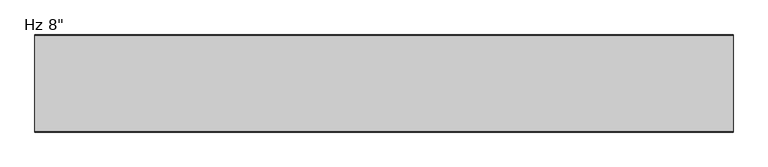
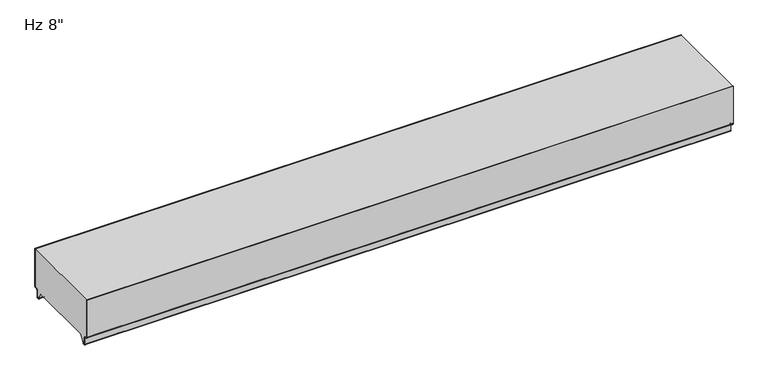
"""IFC4 building model written with IfcOpenShell, lengths in millimetres: plate geometry."""

import ifcopenshell
import ifcopenshell.guid

model = None  # the IFC model being written
_history = None  # IfcOwnerHistory: only IFC2X3 demands one
_inside = {}  # id of a spatial element -> (the spatial element, [elements in it])
_under = {}  # id of a project, library or spatial element -> (it, [spatial elements below it])
_declared = {}  # id of a project -> (the project, [libraries it declares])
_typed = {}  # id of a type object -> (the type object, [elements of that type])
_made_of = {}  # id of a material, layer set ... -> (it, [elements and type objects made of it])


def new_model(schema):
    """Start an empty IFC model of exactly this schema.

    Asked for "IFC4X3", IfcOpenShell would pick the latest addendum, in which some entities
    have other attributes; the version numbers below select the first issue.
    IFC2X3 requires an IfcOwnerHistory on every rooted entity: one is made here for all.
    """
    global model, _history
    if schema == "IFC4X3":
        model = ifcopenshell.file(schema_version=(4, 3, 0, 0))
    else:
        model = ifcopenshell.file(schema=schema)
    _inside.clear()
    _under.clear()
    _declared.clear()
    _typed.clear()
    _made_of.clear()
    _history = None
    if model.schema == "IFC2X3":
        org = make("IfcOrganization", Name="unknown")
        user = make(
            "IfcPersonAndOrganization",
            ThePerson=make("IfcPerson", FamilyName="unknown"),
            TheOrganization=org,
        )
        app = make(
            "IfcApplication",
            ApplicationDeveloper=org,
            Version="unknown",
            ApplicationFullName="unknown",
            ApplicationIdentifier="unknown",
        )
        _history = make(
            "IfcOwnerHistory",
            OwningUser=user,
            OwningApplication=app,
            ChangeAction="ADDED",
            CreationDate=0,
        )
    return model


def make(cls, **values):
    """One entity of the class cls with the attributes given. An attribute that is None is left unset."""
    return model.create_entity(
        cls, **{name: value for name, value in values.items() if value is not None}
    )


def rooted(cls, **values):
    """An entity with a GlobalId (a new one), such as an element, a storey or a relation."""
    return make(cls, GlobalId=ifcopenshell.guid.new(), OwnerHistory=_history, **values)


def si_unit(unit_type, name, prefix=None):
    """IfcSIUnit, for example si_unit("LENGTHUNIT", "METRE", prefix="MILLI")."""
    return make("IfcSIUnit", UnitType=unit_type, Prefix=prefix, Name=name)


def assignment(units):
    """IfcUnitAssignment: the units of a project."""
    return None if units is None else make("IfcUnitAssignment", Units=units)


def point(xyz):
    """IfcCartesianPoint."""
    return None if xyz is None else make("IfcCartesianPoint", Coordinates=xyz)


def direction(xyz):
    """IfcDirection."""
    return None if xyz is None else make("IfcDirection", DirectionRatios=xyz)


def frame(location, z_axis=None, x_axis=None):
    """IfcAxis2Placement3D, a coordinate frame: its origin and axes. An axis left out is left unset."""
    return make(
        "IfcAxis2Placement3D",
        Location=point(location),
        Axis=direction(z_axis),
        RefDirection=direction(x_axis),
    )


def origin():
    """The frame at (0, 0, 0) with its axes left unset."""
    return frame((0.0, 0.0, 0.0))


def place(relative_to, where):
    """IfcLocalPlacement: puts the frame where relative to a parent placement (None: the world)."""
    return make(
        "IfcLocalPlacement", PlacementRelTo=relative_to, RelativePlacement=where
    )


def context(
    kind, dimensions, precision=None, world=None, true_north=None, identifier=None
):
    """IfcGeometricRepresentationContext, for example the 3D "Model" context."""
    return make(
        "IfcGeometricRepresentationContext",
        ContextIdentifier=identifier,
        ContextType=kind,
        CoordinateSpaceDimension=dimensions,
        Precision=precision,
        WorldCoordinateSystem=world,
        TrueNorth=true_north,
    )


def project(units=None, contexts=None):
    """IfcProject with its units and contexts."""
    return rooted(
        "IfcProject",
        Name="project",
        RepresentationContexts=contexts,
        UnitsInContext=assignment(units),
    )


def spatial(cls, under=None, at=None, **own):
    """A site, building, storey or space (cls), placed at a placement, below another one or the project."""
    s = rooted(cls, ObjectPlacement=at, **own)
    if under is not None:
        _under.setdefault(under.id(), (under, []))[1].append(s)
    return s


def polyline(points):
    """IfcPolyline through the points."""
    return make("IfcPolyline", Points=[point(p) for p in points])


def circle_curve(where, radius):
    """IfcCircle in the frame where."""
    return make("IfcCircle", Position=where, Radius=radius)


def shape(context_of_items, identifier, shape_type, items):
    """IfcShapeRepresentation: the items that make up one representation, for example the "Body"."""
    return make(
        "IfcShapeRepresentation",
        ContextOfItems=context_of_items,
        RepresentationIdentifier=identifier,
        RepresentationType=shape_type,
        Items=items,
    )


def source(mapping_origin, context_of_items, identifier, shape_type, items):
    """IfcRepresentationMap: a shape defined once, which mapped items show again and again."""
    return make(
        "IfcRepresentationMap",
        MappingOrigin=mapping_origin,
        MappedRepresentation=shape(context_of_items, identifier, shape_type, items),
    )


def transform(
    local_origin,
    x_axis=None,
    y_axis=None,
    z_axis=None,
    scale=None,
    scale2=None,
    scale3=None,
    uniform=True,
):
    """IfcCartesianTransformationOperator3D, or its non-uniform kind. x_axis, y_axis, z_axis: its Axis1, 2, 3."""
    if uniform:
        return make(
            "IfcCartesianTransformationOperator3D",
            Axis1=direction(x_axis),
            Axis2=direction(y_axis),
            LocalOrigin=point(local_origin),
            Scale=scale,
            Axis3=direction(z_axis),
        )
    return make(
        "IfcCartesianTransformationOperator3DnonUniform",
        Axis1=direction(x_axis),
        Axis2=direction(y_axis),
        LocalOrigin=point(local_origin),
        Scale=scale,
        Axis3=direction(z_axis),
        Scale2=scale2,
        Scale3=scale3,
    )


def mapped(mapping_source, mapping_target):
    """IfcMappedItem: shows the shape of a source again, moved by a transform."""
    return make(
        "IfcMappedItem", MappingSource=mapping_source, MappingTarget=mapping_target
    )


def made_of(thing, what):
    """Note that an element or type object is made of a material, layer set ...; save() writes the relation."""
    if what is not None:
        _made_of.setdefault(what.id(), (what, []))[1].append(thing)
    return thing


def element(
    cls,
    number,
    at=None,
    inside=None,
    cuts=None,
    type_object=None,
    material=None,
    context=None,
    identifier="Body",
    shape_type=None,
    held_by="IfcProductDefinitionShape",
    body=None,
    shapes=None,
    **own,
):
    """One element of the class cls, such as IfcWall. Its Tag is "e" and its number.

    at: its placement. inside: the storey or other place that contains it. cuts: it is an
    opening in that element (IfcRelVoidsElement). A single representation is given by context,
    identifier, shape_type and body (its items); several are given by shapes. held_by: the class
    of the entity that holds the representations. save() writes the other relations.
    """
    e = rooted(cls, Tag="e%d" % number, ObjectPlacement=at, **own)
    if body is not None:
        shapes = [shape(context, identifier, shape_type, body)]
    if shapes is not None:
        e.Representation = make(held_by, Representations=shapes)
    if inside is not None:
        _inside.setdefault(inside.id(), (inside, []))[1].append(e)
    if cuts is not None:
        rooted(
            "IfcRelVoidsElement", RelatingBuildingElement=cuts, RelatedOpeningElement=e
        )
    if type_object is not None:
        _typed.setdefault(type_object.id(), (type_object, []))[1].append(e)
    return made_of(e, material)


def aggregate(whole, parts):
    """IfcRelAggregates: a whole, such as a stair, and the parts it consists of."""
    return rooted("IfcRelAggregates", RelatingObject=whole, RelatedObjects=parts)


def save(model, path):
    """Write the relations noted so far, then the file.

    IfcRelAggregates (storeys below a building ...), IfcRelContainedInSpatialStructure (elements
    in a storey), IfcRelDefinesByType, IfcRelAssociatesMaterial and IfcRelDeclares: one each for
    every whole, place, type object, material and project.
    """
    for whole, parts in _under.values():
        aggregate(whole, parts)
    for where, things in _inside.values():
        rooted(
            "IfcRelContainedInSpatialStructure",
            RelatedElements=things,
            RelatingStructure=where,
        )
    for kind, things in _typed.values():
        rooted("IfcRelDefinesByType", RelatedObjects=things, RelatingType=kind)
    for what, things in _made_of.values():
        rooted("IfcRelAssociatesMaterial", RelatedObjects=things, RelatingMaterial=what)
    for by, libraries in _declared.values():
        rooted("IfcRelDeclares", RelatingContext=by, RelatedDefinitions=libraries)
    model.write(path)


def plane_surface(at):
    """IfcPlane: the flat surface through the origin of the frame at, square to its z axis."""
    return make("IfcPlane", Position=at)


def cylinder_surface(at, radius):
    """IfcCylindricalSurface: all points at the distance radius from the z axis of the frame at."""
    return make("IfcCylindricalSurface", Position=at, Radius=radius)


def revolved_surface(curve, axis_point, axis_direction):
    """IfcSurfaceOfRevolution: the curve turned about the line through axis_point along axis_direction."""
    return make(
        "IfcSurfaceOfRevolution",
        SweptCurve=make("IfcArbitraryOpenProfileDef", ProfileType="CURVE", Curve=curve),
        AxisPosition=make("IfcAxis1Placement", Location=point(axis_point), Axis=direction(axis_direction)),
    )


def advanced_brep(points, edges, surfaces, faces):
    """IfcAdvancedBrep: a solid bounded by faces that lie on surfaces and meet in shared edges.

    An edge is (start, end): straight between two places in points (the first is 0);
    or (start, end, curve); or (start, end, curve, False) where it runs against its curve.
    A face is (place in surfaces, loops), or (place, loops, False) where it looks against
    its surface's normal. A loop lists edges by number (the first is 1), with a minus sign
    where the edge is run from its end to its start. The first loop is the outer one.
    """
    corners = [point(p) for p in points]
    vertices = [make("IfcVertexPoint", VertexGeometry=c) for c in corners]
    made = []
    for start, end, *more in edges:
        made.append(
            make(
                "IfcEdgeCurve",
                EdgeStart=vertices[start],
                EdgeEnd=vertices[end],
                EdgeGeometry=more[0] if more else make("IfcPolyline", Points=[corners[start], corners[end]]),
                SameSense=more[1] if len(more) > 1 else True,
            )
        )
    hull = []
    for where, loops, *sense in faces:
        bounds = []
        for j, loop in enumerate(loops):
            ring = [make("IfcOrientedEdge", EdgeElement=made[abs(k) - 1], Orientation=k > 0) for k in loop]
            bounds.append(
                make(
                    "IfcFaceOuterBound" if j == 0 else "IfcFaceBound",
                    Bound=make("IfcEdgeLoop", EdgeList=ring),
                    Orientation=True,
                )
            )
        hull.append(make("IfcAdvancedFace", Bounds=bounds, FaceSurface=surfaces[where], SameSense=sense[0] if sense else True))
    return make("IfcAdvancedBrep", Outer=make("IfcClosedShell", CfsFaces=hull))


def plate_65289337(model_context):
    return source(origin(), model_context, "Body", "AdvancedBrep", [
        advanced_brep(
        [(-730.0, -2.9776189, 3.8501063), (-730.0, -1.0007088, 5.8270163), (-730.0, -1.0007088, 94.95), (-730.0, 0.0, 94.95), (-730.0, 0.0, 5.8272211), (-730.0, -2.977286, 2.8499526), (-730.0, -5.2691698, 2.8499526), (-730.0, -8.2464384, -0.1273159), (-730.0, -8.2464384, -15.7237419), (-730.0, -9.8343149, -17.3116185), (-730.0, -12.9058636, -17.3116185), (-730.0, -14.4937401, -15.7237419), (-730.0, -14.4937401, -13.3687064), (-730.0, -13.4937365, -13.3687064), (-730.0, -13.4937365, -15.7237374), (-730.0, -12.9058654, -16.3116086), (-730.0, -9.834334, -16.3116086), (-730.0, -9.2464768, -15.7237514), (-730.0, -9.2464768, -0.1272391), (-730.0, -5.2691315, 3.8501063), (730.0, -2.9776189, 3.8501063), (730.0, -5.2691315, 3.8501063), (730.0, -9.2464768, -0.1272391), (730.0, -9.2464768, -15.7237514), (730.0, -9.834334, -16.3116086), (730.0, -12.9058654, -16.3116086), (730.0, -13.4937365, -15.7237374), (730.0, -13.4937365, -13.3687064), (730.0, -14.4937401, -13.3687064), (730.0, -14.4937401, -15.7237419), (730.0, -12.9058636, -17.3116185), (730.0, -9.8343149, -17.3116185), (730.0, -8.2464384, -15.7237419), (730.0, -8.2464384, -0.1273159), (730.0, -5.2691698, 2.8499526), (730.0, -2.977286, 2.8499526), (730.0, -1.75e-05, 5.8272211), (730.0, 0.0, 94.95), (730.0, -1.0007088, 94.95), (730.0, -1.0007088, 5.8270163)],
        [
            (0, 1, circle_curve(frame((-730.0, -2.9776189, 5.8270163), z_axis=(1.0, 0.0, 0.0), x_axis=(0.0, 1.0, 0.0)), 1.9769101)),
            (1, 2),
            (2, 3),
            (3, 4),
            (4, 5, circle_curve(frame((-730.0, -2.977286, 5.8272211), z_axis=(-1.0, 0.0, 0.0), x_axis=(0.0, 1.0, 0.0)), 2.9772685)),
            (5, 6),
            (6, 7, circle_curve(frame((-730.0, -5.2691698, -0.1273159), z_axis=(1.0, 0.0, 0.0), x_axis=(0.0, 1.0, 0.0)), 2.9772685)),
            (7, 8),
            (8, 9, circle_curve(frame((-730.0, -9.8343149, -15.7237419), z_axis=(-1.0, 0.0, 0.0), x_axis=(0.0, 1.0, 0.0)), 1.5878765)),
            (9, 10),
            (10, 11, circle_curve(frame((-730.0, -12.9058636, -15.7237419), z_axis=(-1.0, 0.0, 0.0), x_axis=(0.0, 1.0, 0.0)), 1.5878765)),
            (11, 12),
            (12, 13),
            (13, 14),
            (14, 15, circle_curve(frame((-730.0, -12.9058654, -15.7237374), z_axis=(1.0, 0.0, 0.0), x_axis=(0.0, 1.0, 0.0)), 0.5878711)),
            (15, 16),
            (16, 17, circle_curve(frame((-730.0, -9.834334, -15.7237514), z_axis=(1.0, 0.0, 0.0), x_axis=(0.0, 1.0, 0.0)), 0.5878572)),
            (17, 18),
            (18, 19, circle_curve(frame((-730.0, -5.2691315, -0.1272391), z_axis=(-1.0, 0.0, 0.0), x_axis=(0.0, 1.0, 0.0)), 3.9773454)),
            (19, 0),
            (20, 21),
            (21, 22, circle_curve(frame((730.0, -5.2691315, -0.1272391), z_axis=(1.0, 0.0, 0.0), x_axis=(0.0, 1.0, 0.0)), 3.9773454)),
            (22, 23),
            (23, 24, circle_curve(frame((730.0, -9.834334, -15.7237514), z_axis=(-1.0, 0.0, 0.0), x_axis=(0.0, 1.0, 0.0)), 0.5878572)),
            (24, 25),
            (25, 26, circle_curve(frame((730.0, -12.9058654, -15.7237374), z_axis=(-1.0, 0.0, 0.0), x_axis=(0.0, 1.0, 0.0)), 0.5878711)),
            (26, 27),
            (27, 28),
            (28, 29),
            (29, 30, circle_curve(frame((730.0, -12.9058636, -15.7237419), z_axis=(1.0, 0.0, 0.0), x_axis=(0.0, 1.0, 0.0)), 1.5878765)),
            (30, 31),
            (31, 32, circle_curve(frame((730.0, -9.8343149, -15.7237419), z_axis=(1.0, 0.0, 0.0), x_axis=(0.0, 1.0, 0.0)), 1.5878765)),
            (32, 33),
            (33, 34, circle_curve(frame((730.0, -5.2691698, -0.1273159), z_axis=(-1.0, 0.0, 0.0), x_axis=(0.0, 1.0, 0.0)), 2.9772685)),
            (34, 35),
            (35, 36, circle_curve(frame((730.0, -2.977286, 5.8272211), z_axis=(1.0, 0.0, 0.0), x_axis=(0.0, 1.0, 0.0)), 2.9772685)),
            (36, 37),
            (37, 38),
            (38, 39),
            (39, 20, circle_curve(frame((730.0, -2.9776189, 5.8270163), z_axis=(-1.0, 0.0, 0.0), x_axis=(0.0, 1.0, 0.0)), 1.9769101)),
            (2, 38),
            (37, 3),
            (19, 21),
            (20, 0),
            (18, 22),
            (17, 23),
            (16, 24),
            (15, 25),
            (14, 26),
            (13, 27),
            (12, 28),
            (11, 29),
            (10, 30),
            (9, 31),
            (8, 32),
            (7, 33),
            (6, 34),
            (5, 35),
            (4, 36),
            (1, 39),
        ],
        [
            plane_surface(frame((-730.0, 0.0, 576.2625), z_axis=(-1.0, 0.0, 0.0), x_axis=(0.0, 1.0, 0.0))),
            plane_surface(frame((730.0, 0.0, 576.2625), z_axis=(1.0, 0.0, 0.0), x_axis=(0.0, 1.0, 0.0))),
            plane_surface(frame((730.0, 10.0, 94.95), z_axis=(0.0, 0.0, 1.0), x_axis=(-1.0, 0.0, 0.0))),
            plane_surface(frame((-730.0, -2.9776189, 3.8501063), z_axis=(0.0, 0.0, 1.0), x_axis=(1.0, 0.0, 0.0))),
            cylinder_surface(frame((-730.0, -5.2691315, -0.1272391), z_axis=(-1.0, 0.0, 0.0), x_axis=(0.0, 1.0, 0.0)), 3.9773454),
            plane_surface(frame((-730.0, -9.2464768, -0.1272391), z_axis=(0.0, -1.0, 0.0), x_axis=(1.0, 0.0, 0.0))),
            revolved_surface(polyline([(730.0, -9.2464768, -15.7237514), (-730.0, -9.2464768, -15.7237514)]), (-730.0, -9.834334, -15.7237514), (1.0, 0.0, 0.0)),
            plane_surface(frame((-730.0, -9.834334, -16.3116086), z_axis=(0.0, 0.0, 1.0), x_axis=(1.0, 0.0, 0.0))),
            revolved_surface(polyline([(730.0, -12.3179943, -15.7237374), (-730.0, -12.3179943, -15.7237374)]), (-730.0, -12.9058654, -15.7237374), (1.0, 0.0, 0.0)),
            plane_surface(frame((-730.0, -13.4937365, -15.7237374), z_axis=(0.0, 1.0, 0.0), x_axis=(1.0, 0.0, 0.0))),
            plane_surface(frame((-730.0, -13.4937365, -13.3687064), z_axis=(0.0, 0.0, 1.0), x_axis=(1.0, 0.0, 0.0))),
            plane_surface(frame((-730.0, -14.4937401, -13.3687064), z_axis=(0.0, -1.0, 0.0), x_axis=(1.0, 0.0, 0.0))),
            cylinder_surface(frame((-730.0, -12.9058636, -15.7237419), z_axis=(-1.0, 0.0, 0.0), x_axis=(0.0, 1.0, 0.0)), 1.5878765),
            plane_surface(frame((-730.0, -12.9058636, -17.3116185), z_axis=(0.0, 0.0, -1.0), x_axis=(1.0, 0.0, 0.0))),
            cylinder_surface(frame((-730.0, -9.8343149, -15.7237419), z_axis=(-1.0, 0.0, 0.0), x_axis=(0.0, 1.0, 0.0)), 1.5878765),
            plane_surface(frame((-730.0, -8.2464384, -15.7237419), z_axis=(0.0, 1.0, 0.0), x_axis=(1.0, 0.0, 0.0))),
            revolved_surface(polyline([(730.0, -2.2919013, -0.1273159), (-730.0, -2.2919013, -0.1273159)]), (-730.0, -5.2691698, -0.1273159), (1.0, 0.0, 0.0)),
            plane_surface(frame((-730.0, -5.2691698, 2.8499526), z_axis=(0.0, 0.0, -1.0), x_axis=(1.0, 0.0, 0.0))),
            cylinder_surface(frame((-730.0, -2.977286, 5.8272211), z_axis=(-1.0, 0.0, 0.0), x_axis=(0.0, 1.0, 0.0)), 2.9772685),
            plane_surface(frame((-730.0, 0.0, 5.8272211), z_axis=(0.0, 1.0, 0.0), x_axis=(1.0, 0.0, 0.0))),
            plane_surface(frame((-730.0, -1.0007088, 1150.812837), z_axis=(0.0, -1.0, 0.0), x_axis=(1.0, 0.0, 0.0))),
            revolved_surface(polyline([(730.0, -1.0007088, 5.8270163), (-730.0, -1.0007088, 5.8270163)]), (-730.0, -2.9776189, 5.8270163), (1.0, 0.0, 0.0)),
        ],
        [
            (0, [[1, 2, 3, 4, 5, 6, 7, 8, 9, 10, 11, 12, 13, 14, 15, 16, 17, 18, 19, 20]]),
            (1, [[21, 22, 23, 24, 25, 26, 27, 28, 29, 30, 31, 32, 33, 34, 35, 36, 37, 38, 39, 40]]),
            (2, [[41, -38, 42, -3]]),
            (3, [[43, -21, 44, -20]]),
            (4, [[45, -22, -43, -19]]),
            (5, [[46, -23, -45, -18]]),
            (6, [[47, -24, -46, -17]]),
            (7, [[48, -25, -47, -16]]),
            (8, [[49, -26, -48, -15]]),
            (9, [[50, -27, -49, -14]]),
            (10, [[51, -28, -50, -13]]),
            (11, [[52, -29, -51, -12]]),
            (12, [[53, -30, -52, -11]]),
            (13, [[54, -31, -53, -10]]),
            (14, [[55, -32, -54, -9]]),
            (15, [[56, -33, -55, -8]]),
            (16, [[57, -34, -56, -7]]),
            (17, [[58, -35, -57, -6]]),
            (18, [[59, -36, -58, -5]]),
            (19, [[-4, -42, -37, -59]]),
            (20, [[-39, -41, -2, 60]]),
            (21, [[-44, -40, -60, -1]]),
        ],
    ),
        advanced_brep(
        [(-730.0, -200.2223811, 3.8501063), (-730.0, -197.9308685, 3.8501063), (-730.0, -193.9535232, -0.1272391), (-730.0, -193.9535232, -15.7237514), (-730.0, -193.365666, -16.3116086), (-730.0, -190.2941346, -16.3116086), (-730.0, -189.7062635, -15.7237374), (-730.0, -189.7062635, -13.3687064), (-730.0, -188.7062599, -13.3687064), (-730.0, -188.7062599, -15.7237419), (-730.0, -190.2941364, -17.3116185), (-730.0, -193.3656851, -17.3116185), (-730.0, -194.9535616, -15.7237419), (-730.0, -194.9535616, -0.1273159), (-730.0, -197.9308302, 2.8499526), (-730.0, -200.222714, 2.8499526), (-730.0, -203.1999825, 5.8272211), (-730.0, -203.2, 94.95), (-730.0, -202.1992912, 94.95), (-730.0, -202.1992912, 5.8270163), (730.0, -200.2223811, 3.8501063), (730.0, -202.1992912, 5.8270163), (730.0, -202.1992912, 94.95), (730.0, -203.2, 94.95), (730.0, -203.2, 5.8272211), (730.0, -200.222714, 2.8499526), (730.0, -197.9308302, 2.8499526), (730.0, -194.9535616, -0.1273159), (730.0, -194.9535616, -15.7237419), (730.0, -193.3656851, -17.3116185), (730.0, -190.2941364, -17.3116185), (730.0, -188.7062599, -15.7237419), (730.0, -188.7062599, -13.3687064), (730.0, -189.7062635, -13.3687064), (730.0, -189.7062635, -15.7237374), (730.0, -190.2941346, -16.3116086), (730.0, -193.365666, -16.3116086), (730.0, -193.9535232, -15.7237514), (730.0, -193.9535232, -0.1272391), (730.0, -197.9308685, 3.8501063)],
        [
            (0, 1),
            (1, 2, circle_curve(frame((-730.0, -197.9308685, -0.1272391), z_axis=(-1.0, 0.0, 0.0), x_axis=(0.0, 0.0, -1.0)), 3.9773454)),
            (2, 3),
            (3, 4, circle_curve(frame((-730.0, -193.365666, -15.7237514), z_axis=(1.0, 0.0, 0.0), x_axis=(0.0, 0.0, -1.0)), 0.5878572)),
            (4, 5),
            (5, 6, circle_curve(frame((-730.0, -190.2941346, -15.7237374), z_axis=(1.0, 0.0, 0.0), x_axis=(0.0, 0.0, -1.0)), 0.5878711)),
            (6, 7),
            (7, 8),
            (8, 9),
            (9, 10, circle_curve(frame((-730.0, -190.2941364, -15.7237419), z_axis=(-1.0, 0.0, 0.0), x_axis=(0.0, 0.0, -1.0)), 1.5878765)),
            (10, 11),
            (11, 12, circle_curve(frame((-730.0, -193.3656851, -15.7237419), z_axis=(-1.0, 0.0, 0.0), x_axis=(0.0, 0.0, -1.0)), 1.5878765)),
            (12, 13),
            (13, 14, circle_curve(frame((-730.0, -197.9308302, -0.1273159), z_axis=(1.0, 0.0, 0.0), x_axis=(0.0, 0.0, -1.0)), 2.9772685)),
            (14, 15),
            (15, 16, circle_curve(frame((-730.0, -200.222714, 5.8272211), z_axis=(-1.0, 0.0, 0.0), x_axis=(0.0, 0.0, -1.0)), 2.9772685)),
            (16, 17),
            (17, 18),
            (18, 19),
            (19, 0, circle_curve(frame((-730.0, -200.2223811, 5.8270163), z_axis=(1.0, 0.0, 0.0), x_axis=(0.0, 0.0, -1.0)), 1.9769101)),
            (20, 21, circle_curve(frame((730.0, -200.2223811, 5.8270163), z_axis=(-1.0, 0.0, 0.0), x_axis=(0.0, 0.0, -1.0)), 1.9769101)),
            (21, 22),
            (22, 23),
            (23, 24),
            (24, 25, circle_curve(frame((730.0, -200.222714, 5.8272211), z_axis=(1.0, 0.0, 0.0), x_axis=(0.0, 0.0, -1.0)), 2.9772685)),
            (25, 26),
            (26, 27, circle_curve(frame((730.0, -197.9308302, -0.1273159), z_axis=(-1.0, 0.0, 0.0), x_axis=(0.0, 0.0, -1.0)), 2.9772685)),
            (27, 28),
            (28, 29, circle_curve(frame((730.0, -193.3656851, -15.7237419), z_axis=(1.0, 0.0, 0.0), x_axis=(0.0, 0.0, -1.0)), 1.5878765)),
            (29, 30),
            (30, 31, circle_curve(frame((730.0, -190.2941364, -15.7237419), z_axis=(1.0, 0.0, 0.0), x_axis=(0.0, 0.0, -1.0)), 1.5878765)),
            (31, 32),
            (32, 33),
            (33, 34),
            (34, 35, circle_curve(frame((730.0, -190.2941346, -15.7237374), z_axis=(-1.0, 0.0, 0.0), x_axis=(0.0, 0.0, -1.0)), 0.5878711)),
            (35, 36),
            (36, 37, circle_curve(frame((730.0, -193.365666, -15.7237514), z_axis=(-1.0, 0.0, 0.0), x_axis=(0.0, 0.0, -1.0)), 0.5878572)),
            (37, 38),
            (38, 39, circle_curve(frame((730.0, -197.9308685, -0.1272391), z_axis=(1.0, 0.0, 0.0), x_axis=(0.0, 0.0, -1.0)), 3.9773454)),
            (39, 20),
            (17, 23),
            (22, 18),
            (19, 21),
            (20, 0),
            (16, 24),
            (15, 25),
            (14, 26),
            (13, 27),
            (12, 28),
            (11, 29),
            (10, 30),
            (9, 31),
            (8, 32),
            (7, 33),
            (6, 34),
            (5, 35),
            (4, 36),
            (3, 37),
            (2, 38),
            (1, 39),
        ],
        [
            plane_surface(frame((-730.0, -203.2, 576.2625), z_axis=(-1.0, 0.0, 0.0), x_axis=(0.0, -1.0, 0.0))),
            plane_surface(frame((730.0, -203.2, 576.2625), z_axis=(1.0, 0.0, 0.0), x_axis=(0.0, -1.0, 0.0))),
            plane_surface(frame((730.0, 10.0, 94.95), z_axis=(0.0, 0.0, 1.0), x_axis=(-1.0, 0.0, 0.0))),
            revolved_surface(polyline([(730.0, -200.2223811, 3.8501062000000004), (-730.0, -200.2223811, 3.8501062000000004)]), (-730.0, -200.2223811, 5.8270163), (1.0, 0.0, 0.0)),
            plane_surface(frame((-730.0, -202.1992912, 5.8270163), z_axis=(0.0, 1.0, 0.0), x_axis=(1.0, 0.0, 0.0))),
            plane_surface(frame((-730.0, -203.2, 1150.8100652), z_axis=(0.0, -1.0, 0.0), x_axis=(1.0, 0.0, 0.0))),
            cylinder_surface(frame((-730.0, -200.222714, 5.8272211), z_axis=(-1.0, 0.0, 0.0), x_axis=(0.0, 0.0, -1.0)), 2.9772685),
            plane_surface(frame((-730.0, -200.222714, 2.8499526), z_axis=(0.0, 0.0, -1.0), x_axis=(1.0, 0.0, 0.0))),
            revolved_surface(polyline([(730.0, -197.9308302, -3.1045844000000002), (-730.0, -197.9308302, -3.1045844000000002)]), (-730.0, -197.9308302, -0.1273159), (1.0, 0.0, 0.0)),
            plane_surface(frame((-730.0, -194.9535616, -0.1273159), z_axis=(0.0, -1.0, 0.0), x_axis=(1.0, 0.0, 0.0))),
            cylinder_surface(frame((-730.0, -193.3656851, -15.7237419), z_axis=(-1.0, 0.0, 0.0), x_axis=(0.0, 0.0, -1.0)), 1.5878765),
            plane_surface(frame((-730.0, -193.3656851, -17.3116185), z_axis=(0.0, 0.0, -1.0), x_axis=(1.0, 0.0, 0.0))),
            cylinder_surface(frame((-730.0, -190.2941364, -15.7237419), z_axis=(-1.0, 0.0, 0.0), x_axis=(0.0, 0.0, -1.0)), 1.5878765),
            plane_surface(frame((-730.0, -188.7062599, -15.7237419), z_axis=(0.0, 1.0, 0.0), x_axis=(1.0, 0.0, 0.0))),
            plane_surface(frame((-730.0, -188.7062599, -13.3687064), z_axis=(0.0, 0.0, 1.0), x_axis=(1.0, 0.0, 0.0))),
            plane_surface(frame((-730.0, -189.7062635, -13.3687064), z_axis=(0.0, -1.0, 0.0), x_axis=(1.0, 0.0, 0.0))),
            revolved_surface(polyline([(730.0, -190.2941346, -16.3116085), (-730.0, -190.2941346, -16.3116085)]), (-730.0, -190.2941346, -15.7237374), (1.0, 0.0, 0.0)),
            plane_surface(frame((-730.0, -190.2941346, -16.3116086), z_axis=(0.0, 0.0, 1.0), x_axis=(1.0, 0.0, 0.0))),
            revolved_surface(polyline([(730.0, -193.365666, -16.3116086), (-730.0, -193.365666, -16.3116086)]), (-730.0, -193.365666, -15.7237514), (1.0, 0.0, 0.0)),
            plane_surface(frame((-730.0, -193.9535232, -15.7237514), z_axis=(0.0, 1.0, 0.0), x_axis=(1.0, 0.0, 0.0))),
            cylinder_surface(frame((-730.0, -197.9308685, -0.1272391), z_axis=(-1.0, 0.0, 0.0), x_axis=(0.0, 0.0, -1.0)), 3.9773454),
            plane_surface(frame((-730.0, -197.9308685, 3.8501063), z_axis=(0.0, 0.0, 1.0), x_axis=(1.0, 0.0, 0.0))),
        ],
        [
            (0, [[1, 2, 3, 4, 5, 6, 7, 8, 9, 10, 11, 12, 13, 14, 15, 16, 17, 18, 19, 20]]),
            (1, [[21, 22, 23, 24, 25, 26, 27, 28, 29, 30, 31, 32, 33, 34, 35, 36, 37, 38, 39, 40]]),
            (2, [[41, -23, 42, -18]]),
            (3, [[43, -21, 44, -20]]),
            (4, [[-19, -42, -22, -43]]),
            (5, [[-24, -41, -17, 45]]),
            (6, [[46, -25, -45, -16]]),
            (7, [[47, -26, -46, -15]]),
            (8, [[48, -27, -47, -14]]),
            (9, [[49, -28, -48, -13]]),
            (10, [[50, -29, -49, -12]]),
            (11, [[51, -30, -50, -11]]),
            (12, [[52, -31, -51, -10]]),
            (13, [[53, -32, -52, -9]]),
            (14, [[54, -33, -53, -8]]),
            (15, [[55, -34, -54, -7]]),
            (16, [[56, -35, -55, -6]]),
            (17, [[57, -36, -56, -5]]),
            (18, [[58, -37, -57, -4]]),
            (19, [[59, -38, -58, -3]]),
            (20, [[60, -39, -59, -2]]),
            (21, [[-44, -40, -60, -1]]),
        ],
    ),
        advanced_brep(
        [(-730.0, -200.2227194, 3.8499499), (-730.0, -202.1999935, 5.8272239), (-730.0, -202.2, 94.95), (-730.0, -1.0, 94.95), (-730.0, -1.0, 5.8272239), (-730.0, -2.9772806, 3.8499499), (-730.0, -5.2691705, 3.8499499), (-730.0, -9.2464377, -0.1273173), (-730.0, -9.2464377, -15.7237417), (-730.0, -9.8343146, -16.3116186), (-730.0, -12.9058635, -16.3116186), (-730.0, -13.4937402, -15.723742), (-730.0, -13.4937402, -13.3687064), (-730.0, -14.4937402, -13.3687064), (-730.0, -14.4937402, -15.6582851), (-730.0, -23.7509135, 0.0), (-730.0, -179.4490865, 0.0), (-730.0, -188.7062598, -15.6582851), (-730.0, -188.7062598, -13.3687064), (-730.0, -189.7062598, -13.3687064), (-730.0, -189.7062598, -15.723742), (-730.0, -190.2941365, -16.3116186), (-730.0, -193.3656854, -16.3116186), (-730.0, -193.9535623, -15.7237417), (-730.0, -193.9535623, -0.1273173), (-730.0, -197.9308295, 3.8499499), (730.0, -200.2227194, 3.8499499), (730.0, -197.9308295, 3.8499499), (730.0, -193.9535623, -0.1273173), (730.0, -193.9535623, -15.7237417), (730.0, -193.3656854, -16.3116186), (730.0, -190.2941365, -16.3116186), (730.0, -189.7062598, -15.723742), (730.0, -189.7062598, -13.3687064), (730.0, -188.7062598, -13.3687064), (730.0, -188.7062598, -15.6582851), (730.0, -179.4490865, 0.0), (730.0, -23.7509179, 0.0), (730.0, -14.4937402, -15.6582851), (730.0, -14.4937402, -13.3687064), (730.0, -13.4937402, -13.3687064), (730.0, -13.4937402, -15.723742), (730.0, -12.9058635, -16.3116186), (730.0, -9.8343146, -16.3116186), (730.0, -9.2464377, -15.7237417), (730.0, -9.2464377, -0.1273173), (730.0, -5.2691705, 3.8499499), (730.0, -2.9772806, 3.8499499), (730.0, -1.0000065, 5.8272239), (730.0, -1.0, 94.95), (730.0, -202.2, 94.95), (730.0, -202.2, 5.8272239)],
        [
            (0, 1, circle_curve(frame((-730.0, -200.2227194, 5.8272239), z_axis=(-1.0, 0.0, 0.0), x_axis=(0.0, 0.0, -1.0)), 1.977274)),
            (1, 2),
            (2, 3),
            (3, 4),
            (4, 5, circle_curve(frame((-730.0, -2.9772806, 5.8272239), z_axis=(-1.0, 0.0, 0.0), x_axis=(0.0, 1.0, 0.0)), 1.977274)),
            (5, 6),
            (6, 7, circle_curve(frame((-730.0, -5.2691705, -0.1273173), z_axis=(1.0, 0.0, 0.0), x_axis=(0.0, 1.0, 0.0)), 3.9772671)),
            (7, 8),
            (8, 9, circle_curve(frame((-730.0, -9.8343146, -15.7237417), z_axis=(-1.0, 0.0, 0.0), x_axis=(0.0, 1.0, 0.0)), 0.5878769)),
            (9, 10),
            (10, 11, circle_curve(frame((-730.0, -12.9058635, -15.723742), z_axis=(-1.0, 0.0, 0.0), x_axis=(0.0, 1.0, 0.0)), 0.5878766)),
            (11, 12),
            (12, 13),
            (13, 14),
            (14, 15),
            (15, 16),
            (16, 17),
            (17, 18),
            (18, 19),
            (19, 20),
            (20, 21, circle_curve(frame((-730.0, -190.2941365, -15.723742), z_axis=(-1.0, 0.0, 0.0), x_axis=(0.0, 0.0, -1.0)), 0.5878766)),
            (21, 22),
            (22, 23, circle_curve(frame((-730.0, -193.3656854, -15.7237417), z_axis=(-1.0, 0.0, 0.0), x_axis=(0.0, 0.0, -1.0)), 0.5878769)),
            (23, 24),
            (24, 25, circle_curve(frame((-730.0, -197.9308295, -0.1273173), z_axis=(1.0, 0.0, 0.0), x_axis=(0.0, 0.0, -1.0)), 3.9772671)),
            (25, 0),
            (26, 27),
            (27, 28, circle_curve(frame((730.0, -197.9308295, -0.1273173), z_axis=(-1.0, 0.0, 0.0), x_axis=(0.0, 0.0, -1.0)), 3.9772671)),
            (28, 29),
            (29, 30, circle_curve(frame((730.0, -193.3656854, -15.7237417), z_axis=(1.0, 0.0, 0.0), x_axis=(0.0, 0.0, -1.0)), 0.5878769)),
            (30, 31),
            (31, 32, circle_curve(frame((730.0, -190.2941365, -15.723742), z_axis=(1.0, 0.0, 0.0), x_axis=(0.0, 0.0, -1.0)), 0.5878766)),
            (32, 33),
            (33, 34),
            (34, 35),
            (35, 36),
            (36, 37),
            (37, 38),
            (38, 39),
            (39, 40),
            (40, 41),
            (41, 42, circle_curve(frame((730.0, -12.9058635, -15.723742), z_axis=(1.0, 0.0, 0.0), x_axis=(0.0, 1.0, 0.0)), 0.5878766)),
            (42, 43),
            (43, 44, circle_curve(frame((730.0, -9.8343146, -15.7237417), z_axis=(1.0, 0.0, 0.0), x_axis=(0.0, 1.0, 0.0)), 0.5878769)),
            (44, 45),
            (45, 46, circle_curve(frame((730.0, -5.2691705, -0.1273173), z_axis=(-1.0, 0.0, 0.0), x_axis=(0.0, 1.0, 0.0)), 3.9772671)),
            (46, 47),
            (47, 48, circle_curve(frame((730.0, -2.9772806, 5.8272239), z_axis=(1.0, 0.0, 0.0), x_axis=(0.0, 1.0, 0.0)), 1.977274)),
            (48, 49),
            (49, 50),
            (50, 51),
            (51, 26, circle_curve(frame((730.0, -200.2227194, 5.8272239), z_axis=(1.0, 0.0, 0.0), x_axis=(0.0, 0.0, -1.0)), 1.977274)),
            (36, 16),
            (15, 37),
            (2, 50),
            (49, 3),
            (25, 27),
            (26, 0),
            (24, 28),
            (23, 29),
            (22, 30),
            (21, 31),
            (20, 32),
            (19, 33),
            (18, 34),
            (17, 35),
            (1, 51),
            (4, 48),
            (47, 5),
            (14, 38),
            (13, 39),
            (12, 40),
            (11, 41),
            (10, 42),
            (9, 43),
            (8, 44),
            (7, 45),
            (6, 46),
        ],
        [
            plane_surface(frame((-730.0, -202.2, 576.2625), z_axis=(-1.0, 0.0, 0.0), x_axis=(0.0, -1.0, 0.0))),
            plane_surface(frame((730.0, -202.2, 576.2625), z_axis=(1.0, 0.0, 0.0), x_axis=(0.0, -1.0, 0.0))),
            plane_surface(frame((-730.0, -179.4490865, 0.0), z_axis=(0.0, 0.0, -1.0), x_axis=(1.0, 0.0, 0.0))),
            plane_surface(frame((730.0, 10.0, 94.95), z_axis=(0.0, 0.0, 1.0), x_axis=(-1.0, 0.0, 0.0))),
            plane_surface(frame((-730.0, -200.2227194, 3.8499499), z_axis=(0.0, 0.0, -1.0), x_axis=(1.0, 0.0, 0.0))),
            revolved_surface(polyline([(730.0, -197.9308295, -4.1045844), (-730.0, -197.9308295, -4.1045844)]), (-730.0, -197.9308295, -0.1273173), (1.0, 0.0, 0.0)),
            plane_surface(frame((-730.0, -193.9535623, -0.1273173), z_axis=(0.0, -1.0, 0.0), x_axis=(1.0, 0.0, 0.0))),
            cylinder_surface(frame((-730.0, -193.3656854, -15.7237417), z_axis=(-1.0, 0.0, 0.0), x_axis=(0.0, 0.0, -1.0)), 0.5878769),
            plane_surface(frame((-730.0, -193.3656854, -16.3116186), z_axis=(0.0, 0.0, -1.0), x_axis=(1.0, 0.0, 0.0))),
            cylinder_surface(frame((-730.0, -190.2941365, -15.723742), z_axis=(-1.0, 0.0, 0.0), x_axis=(0.0, 0.0, -1.0)), 0.5878766),
            plane_surface(frame((-730.0, -189.7062598, -15.723742), z_axis=(0.0, 1.0, 0.0), x_axis=(1.0, 0.0, 0.0))),
            plane_surface(frame((-730.0, -189.7062598, -13.3687064), z_axis=(0.0, 0.0, -1.0), x_axis=(1.0, 0.0, 0.0))),
            plane_surface(frame((-730.0, -188.7062598, -13.3687064), z_axis=(0.0, -1.0, 0.0), x_axis=(1.0, 0.0, 0.0))),
            plane_surface(frame((-730.0, -188.7062598, -15.6582851), z_axis=(0.0, 0.8608169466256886, -0.5089147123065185), x_axis=(1.0, 0.0, 0.0))),
            plane_surface(frame((-730.0, -202.2, 1150.8100652), z_axis=(0.0, -1.0, 0.0), x_axis=(1.0, 0.0, 0.0))),
            cylinder_surface(frame((-730.0, -200.2227194, 5.8272239), z_axis=(-1.0, 0.0, 0.0), x_axis=(0.0, 0.0, -1.0)), 1.977274),
            cylinder_surface(frame((-730.0, -2.9772806, 5.8272239), z_axis=(-1.0, 0.0, 0.0), x_axis=(0.0, 1.0, 0.0)), 1.977274),
            plane_surface(frame((-730.0, -1.0, 5.8272239), z_axis=(0.0, 1.0, 0.0), x_axis=(1.0, 0.0, 0.0))),
            plane_surface(frame((-730.0, -23.7509135, 0.0), z_axis=(0.0, -0.8608169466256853, -0.5089147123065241), x_axis=(1.0, 0.0, 0.0))),
            plane_surface(frame((-730.0, -14.4937402, -15.6582851), z_axis=(0.0, 1.0, 0.0), x_axis=(1.0, 0.0, 0.0))),
            plane_surface(frame((-730.0, -14.4937402, -13.3687064), z_axis=(0.0, 0.0, -1.0), x_axis=(1.0, 0.0, 0.0))),
            plane_surface(frame((-730.0, -13.4937402, -13.3687064), z_axis=(0.0, -1.0, 0.0), x_axis=(1.0, 0.0, 0.0))),
            cylinder_surface(frame((-730.0, -12.9058635, -15.723742), z_axis=(-1.0, 0.0, 0.0), x_axis=(0.0, 1.0, 0.0)), 0.5878766),
            plane_surface(frame((-730.0, -12.9058635, -16.3116186), z_axis=(0.0, 0.0, -1.0), x_axis=(1.0, 0.0, 0.0))),
            cylinder_surface(frame((-730.0, -9.8343146, -15.7237417), z_axis=(-1.0, 0.0, 0.0), x_axis=(0.0, 1.0, 0.0)), 0.5878769),
            plane_surface(frame((-730.0, -9.2464377, -15.7237417), z_axis=(0.0, 1.0, 0.0), x_axis=(1.0, 0.0, 0.0))),
            revolved_surface(polyline([(730.0, -1.2919034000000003, -0.1273173), (-730.0, -1.2919034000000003, -0.1273173)]), (-730.0, -5.2691705, -0.1273173), (1.0, 0.0, 0.0)),
            plane_surface(frame((-730.0, -5.2691705, 3.8499499), z_axis=(0.0, 0.0, -1.0), x_axis=(1.0, 0.0, 0.0))),
        ],
        [
            (0, [[1, 2, 3, 4, 5, 6, 7, 8, 9, 10, 11, 12, 13, 14, 15, 16, 17, 18, 19, 20, 21, 22, 23, 24, 25, 26]]),
            (1, [[27, 28, 29, 30, 31, 32, 33, 34, 35, 36, 37, 38, 39, 40, 41, 42, 43, 44, 45, 46, 47, 48, 49, 50, 51, 52]]),
            (2, [[53, -16, 54, -37]]),
            (3, [[55, -50, 56, -3]]),
            (4, [[57, -27, 58, -26]]),
            (5, [[59, -28, -57, -25]]),
            (6, [[60, -29, -59, -24]]),
            (7, [[61, -30, -60, -23]]),
            (8, [[62, -31, -61, -22]]),
            (9, [[63, -32, -62, -21]]),
            (10, [[64, -33, -63, -20]]),
            (11, [[65, -34, -64, -19]]),
            (12, [[66, -35, -65, -18]]),
            (13, [[-53, -36, -66, -17]]),
            (14, [[-51, -55, -2, 67]]),
            (15, [[-58, -52, -67, -1]]),
            (16, [[68, -48, 69, -5]]),
            (17, [[-4, -56, -49, -68]]),
            (18, [[70, -38, -54, -15]]),
            (19, [[71, -39, -70, -14]]),
            (20, [[72, -40, -71, -13]]),
            (21, [[73, -41, -72, -12]]),
            (22, [[74, -42, -73, -11]]),
            (23, [[75, -43, -74, -10]]),
            (24, [[76, -44, -75, -9]]),
            (25, [[77, -45, -76, -8]]),
            (26, [[78, -46, -77, -7]]),
            (27, [[-69, -47, -78, -6]]),
        ],
    ),
    ])


if __name__ == "__main__":
    model = new_model("IFC4")
    model_context = context("Model", 3, world=origin())
    ifc_project = project(units=[si_unit("LENGTHUNIT", "METRE", prefix="MILLI")], contexts=[model_context])
    site = spatial("IfcSite", under=ifc_project)
    building = spatial("IfcBuilding", under=site)
    placement = place(None, origin())
    plate_shape = plate_65289337(model_context)
    element("IfcPlate", 1, ObjectType="KIP-SLI-FLI-R19-CP-Hz-FL_FL : Hz 8\"", at=placement, inside=building, context=model_context, shape_type="MappedRepresentation", body=[
        mapped(plate_shape, transform((0.0, 0.0, 0.0), x_axis=(1.0, 0.0, 0.0), y_axis=(0.0, 1.0, 0.0), z_axis=(0.0, 0.0, 1.0))),
    ])
    save(model, "model.ifc")
